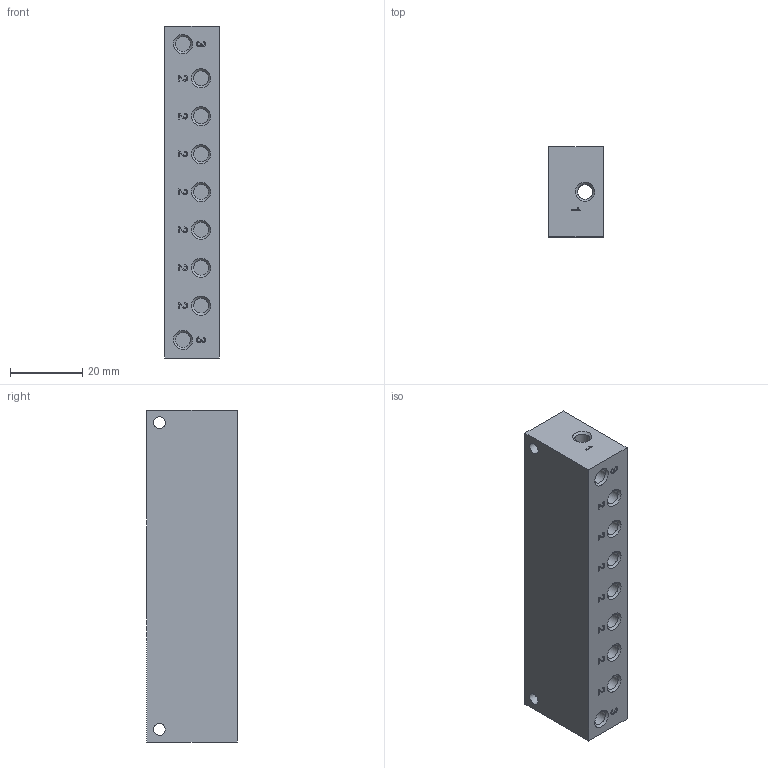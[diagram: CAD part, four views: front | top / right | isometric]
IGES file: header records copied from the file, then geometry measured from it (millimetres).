
Global section: file name: 395_07; native system: Autodesk Inventor 2014; preprocessor: unknown; author: R.Rivoltella; organization: Pneumax S.p.A.; date: 20161005.082412; units: millimetre
Bounding box: 15 x 25 x 92 mm (x, y, z)
Volume: 32092.1 mm3; surface area: 10437.8 mm2
Topology: 1 solids, 1 shells, 234 faces, 668 edges, 458 vertices
Faces by surface type: bspline 234
